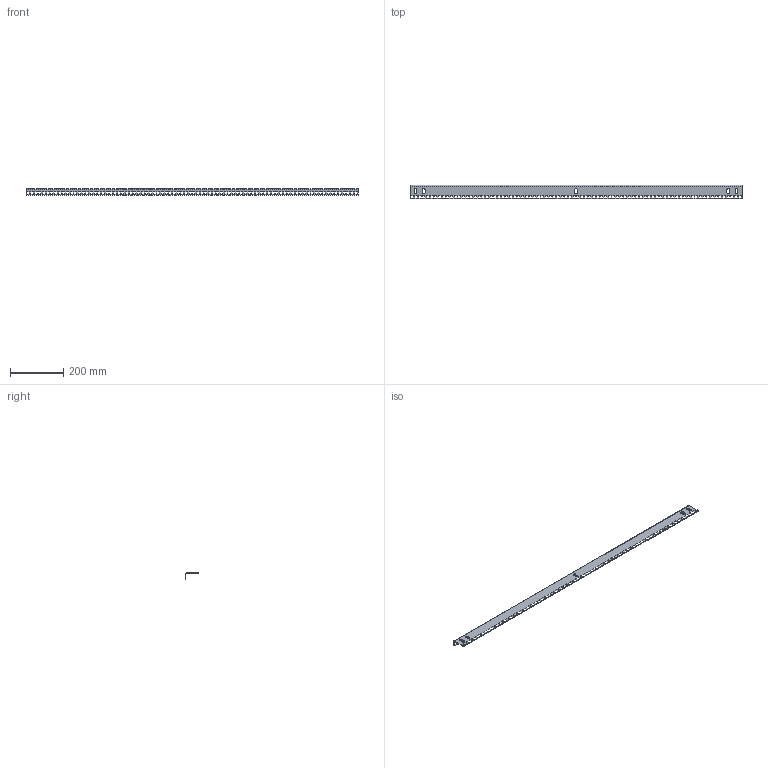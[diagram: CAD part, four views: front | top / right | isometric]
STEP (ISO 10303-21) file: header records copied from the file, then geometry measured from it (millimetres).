
FILE_DESCRIPTION( ( 'Unknown' ), '1' );
FILE_NAME( 'Q:/CONTEMPRA RAILS/WEB DRAWINGS/STEP/CPR49SZPL.stp', 'Unknown', ( 'Unknown' ), ( 'Unknown' ), 'PSStep 13.0', 'Unknown', ' ' );
FILE_SCHEMA( ( 'AUTOMOTIVE_DESIGN { 1 0 10303 214 1 1 1 1 }' ) );
Length unit declared in the file: millimetre
Products named in the file (1): 1
Bounding box: 1245.36 x 50.8 x 22.63 mm (x, y, z)
Volume: 171270.6 mm3; surface area: 164362.4 mm2
Topology: 1 solids, 1 shells, 702 faces, 2100 edges, 1400 vertices
Faces by surface type: plane 690, cylinder 12
Entity records: 29472 total; most frequent: CARTESIAN_POINT 4203, ORIENTED_EDGE 4200, DIRECTION 3530, EDGE_CURVE 2100, LINE 2076, VECTOR 2076, VERTEX_POINT 1400, EDGE_LOOP 1048
